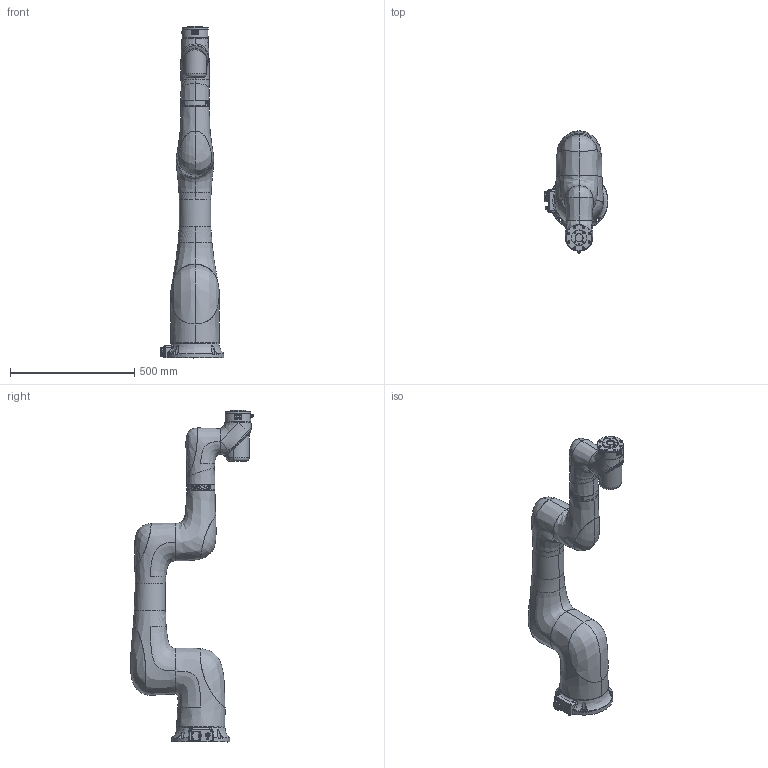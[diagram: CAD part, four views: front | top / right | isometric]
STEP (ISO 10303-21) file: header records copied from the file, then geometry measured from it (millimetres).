
FILE_DESCRIPTION(/* description */ (''),/* implementation_level */ '2;1');
FILE_NAME(/* name */ '【】XMC18-R925-C 简化模型（20231219）.stp',/* time_stamp */ '2023-12-19T17:44:31+08:00',/* author */ (''),/* organization */ (''),/* preprocessor_version */ 'ST-DEVELOPER v16',/* originating_system */ 'SIEMENS PLM Software NX 10.0',/* authorisation */ '');
FILE_SCHEMA (('AUTOMOTIVE_DESIGN { 1 0 10303 214 3 1 1 1 }'));
Products named in the file (8): XMC18-C-shuchu-A; XMC18-C-shouwan-A; XMC18-C-yao-A; XMC18-C-base-A; XMC18-C-xiaobihou-A; XMC18-C-xiaobiqian-A; XMC18-C-dabi-A; 【】XMC18-C-R925 简化模型 20
231128
Assembly tree (7 placements, depth 2):
  【】XMC18-C-R925 简化模型 20
231128
    XMC18-C-dabi-A
    XMC18-C-xiaobiqian-A
    XMC18-C-xiaobihou-A
    XMC18-C-base-A
    XMC18-C-yao-A
    XMC18-C-shouwan-A
    XMC18-C-shuchu-A
Bounding box: 257.51 x 496.25 x 1338 mm (x, y, z)
Volume: 32132601.6 mm3; surface area: 1449570.5 mm2
Topology: 14 solids, 37 shells, 2645 faces, 6762 edges, 4289 vertices
Faces by surface type: plane 1269, cone 556, cylinder 505, bspline 158, torus 132, extrusion 16, sphere 8, revolution 1
Full cylindrical faces by diameter (mm): 0.8 x8, 2.5 x8, 2.874 x8, 3.3 x1, 3.4 x8, 3.8 x8, 4 x1, 4.2 x1, 4.84 x4, 5 x4, 5.5 x8, 5.8 x1, 6 x3, 6.7 x3, 7 x9, 8 x1, 8.3 x2, 8.9 x1, 9.321 x1, 11 x4, 12.5 x1, 13.079 x1, 13.8 x1, 14 x1, 28.5 x1, 31.5 x1, 63 x1, 80 x4, 100 x2, 104.6 x2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
Entity records: 101798 total; most frequent: CARTESIAN_POINT 40784, ORIENTED_EDGE 12790, DIRECTION 12026, EDGE_CURVE 6395, AXIS2_PLACEMENT_3D 4643, VERTEX_POINT 4210, EDGE_LOOP 3095, VECTOR 2739
